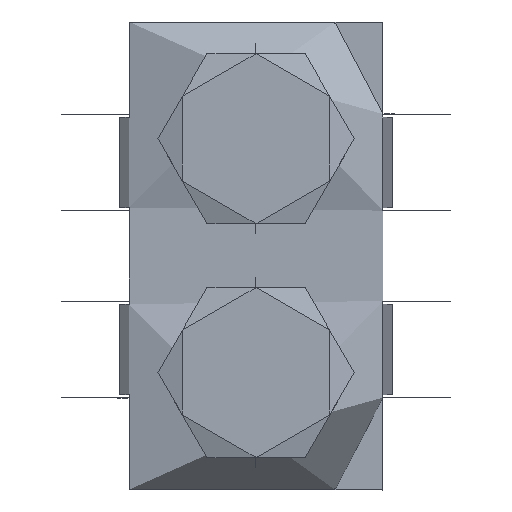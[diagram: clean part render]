
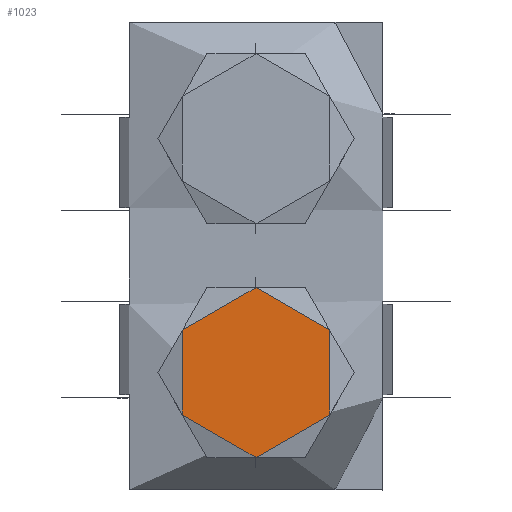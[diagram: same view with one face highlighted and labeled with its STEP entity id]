
A CAD part, top view. The second image highlights one B-rep face of the part: STEP entity #1023.
In plain terms, the highlighted planar face has unit normal (0, 0, 1).
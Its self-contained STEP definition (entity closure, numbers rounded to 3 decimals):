
#85=PLANE($,#3060);
#1023=ADVANCED_FACE($,(#1123),#85,.T.);
#1123=FACE_OUTER_BOUND($,#1237,.T.);
#1237=EDGE_LOOP($,(#1519,#1520,#1521,#1522,#1523,#1524));
#1519=ORIENTED_EDGE($,*,*,#1955,.T.);
#1520=ORIENTED_EDGE($,*,*,#1960,.T.);
#1521=ORIENTED_EDGE($,*,*,#1959,.T.);
#1522=ORIENTED_EDGE($,*,*,#1958,.T.);
#1523=ORIENTED_EDGE($,*,*,#1957,.T.);
#1524=ORIENTED_EDGE($,*,*,#1956,.T.);
#1955=EDGE_CURVE($,#2360,#2359,#2694,.T.);
#1956=EDGE_CURVE($,#2361,#2360,#2695,.T.);
#1957=EDGE_CURVE($,#2362,#2361,#2696,.T.);
#1958=EDGE_CURVE($,#2363,#2362,#2697,.T.);
#1959=EDGE_CURVE($,#2364,#2363,#2698,.T.);
#1960=EDGE_CURVE($,#2359,#2364,#2699,.T.);
#2359=VERTEX_POINT($,#5231);
#2360=VERTEX_POINT($,#5232);
#2361=VERTEX_POINT($,#5233);
#2362=VERTEX_POINT($,#5234);
#2363=VERTEX_POINT($,#5235);
#2364=VERTEX_POINT($,#5236);
#2694=(
BOUNDED_CURVE()
B_SPLINE_CURVE(2,(#5212,#5213,#5214),.UNSPECIFIED.,.F.,.F.)
B_SPLINE_CURVE_WITH_KNOTS((3,3),(5.236,6.283),.UNSPECIFIED.)
CURVE()
GEOMETRIC_REPRESENTATION_ITEM()
RATIONAL_B_SPLINE_CURVE((1.,0.866,1.))
REPRESENTATION_ITEM($)
);
#2695=(
BOUNDED_CURVE()
B_SPLINE_CURVE(2,(#5215,#5216,#5217),.UNSPECIFIED.,.F.,.F.)
B_SPLINE_CURVE_WITH_KNOTS((3,3),(4.189,5.236),.UNSPECIFIED.)
CURVE()
GEOMETRIC_REPRESENTATION_ITEM()
RATIONAL_B_SPLINE_CURVE((1.,0.866,1.))
REPRESENTATION_ITEM($)
);
#2696=(
BOUNDED_CURVE()
B_SPLINE_CURVE(2,(#5218,#5219,#5220),.UNSPECIFIED.,.F.,.F.)
B_SPLINE_CURVE_WITH_KNOTS((3,3),(3.142,4.189),.UNSPECIFIED.)
CURVE()
GEOMETRIC_REPRESENTATION_ITEM()
RATIONAL_B_SPLINE_CURVE((1.,0.866,1.))
REPRESENTATION_ITEM($)
);
#2697=(
BOUNDED_CURVE()
B_SPLINE_CURVE(2,(#5221,#5222,#5223),.UNSPECIFIED.,.F.,.F.)
B_SPLINE_CURVE_WITH_KNOTS((3,3),(2.094,3.142),.UNSPECIFIED.)
CURVE()
GEOMETRIC_REPRESENTATION_ITEM()
RATIONAL_B_SPLINE_CURVE((1.,0.866,1.))
REPRESENTATION_ITEM($)
);
#2698=(
BOUNDED_CURVE()
B_SPLINE_CURVE(2,(#5224,#5225,#5226),.UNSPECIFIED.,.F.,.F.)
B_SPLINE_CURVE_WITH_KNOTS((3,3),(1.047,2.094),.UNSPECIFIED.)
CURVE()
GEOMETRIC_REPRESENTATION_ITEM()
RATIONAL_B_SPLINE_CURVE((1.,0.866,1.))
REPRESENTATION_ITEM($)
);
#2699=(
BOUNDED_CURVE()
B_SPLINE_CURVE(2,(#5227,#5228,#5229),.UNSPECIFIED.,.F.,.F.)
B_SPLINE_CURVE_WITH_KNOTS((3,3),(0.,1.047),.UNSPECIFIED.)
CURVE()
GEOMETRIC_REPRESENTATION_ITEM()
RATIONAL_B_SPLINE_CURVE((1.,0.866,1.))
REPRESENTATION_ITEM($)
);
#3060=AXIS2_PLACEMENT_3D($,#5230,#3116,$);
#3116=DIRECTION($,(0.,0.,1.));
#5212=CARTESIAN_POINT($,(-4.718,-10.226,15.753));
#5213=CARTESIAN_POINT($,(-3.144,-12.952,15.753));
#5214=CARTESIAN_POINT($,(0.004,-12.952,15.753));
#5215=CARTESIAN_POINT($,(-4.718,-4.775,15.753));
#5216=CARTESIAN_POINT($,(-6.291,-7.501,15.753));
#5217=CARTESIAN_POINT($,(-4.718,-10.226,15.753));
#5218=CARTESIAN_POINT($,(0.004,-2.049,15.753));
#5219=CARTESIAN_POINT($,(-3.144,-2.049,15.753));
#5220=CARTESIAN_POINT($,(-4.718,-4.775,15.753));
#5221=CARTESIAN_POINT($,(4.725,-4.775,15.753));
#5222=CARTESIAN_POINT($,(3.151,-2.049,15.753));
#5223=CARTESIAN_POINT($,(0.004,-2.049,15.753));
#5224=CARTESIAN_POINT($,(4.725,-10.226,15.753));
#5225=CARTESIAN_POINT($,(6.299,-7.501,15.753));
#5226=CARTESIAN_POINT($,(4.725,-4.775,15.753));
#5227=CARTESIAN_POINT($,(0.004,-12.952,15.753));
#5228=CARTESIAN_POINT($,(3.151,-12.952,15.753));
#5229=CARTESIAN_POINT($,(4.725,-10.226,15.753));
#5230=CARTESIAN_POINT($,(-5.557,-2.049,15.753));
#5231=CARTESIAN_POINT($,(0.004,-12.952,15.753));
#5232=CARTESIAN_POINT($,(-4.718,-10.226,15.753));
#5233=CARTESIAN_POINT($,(-4.718,-4.775,15.753));
#5234=CARTESIAN_POINT($,(0.004,-2.049,15.753));
#5235=CARTESIAN_POINT($,(4.725,-4.775,15.753));
#5236=CARTESIAN_POINT($,(4.725,-10.226,15.753));
